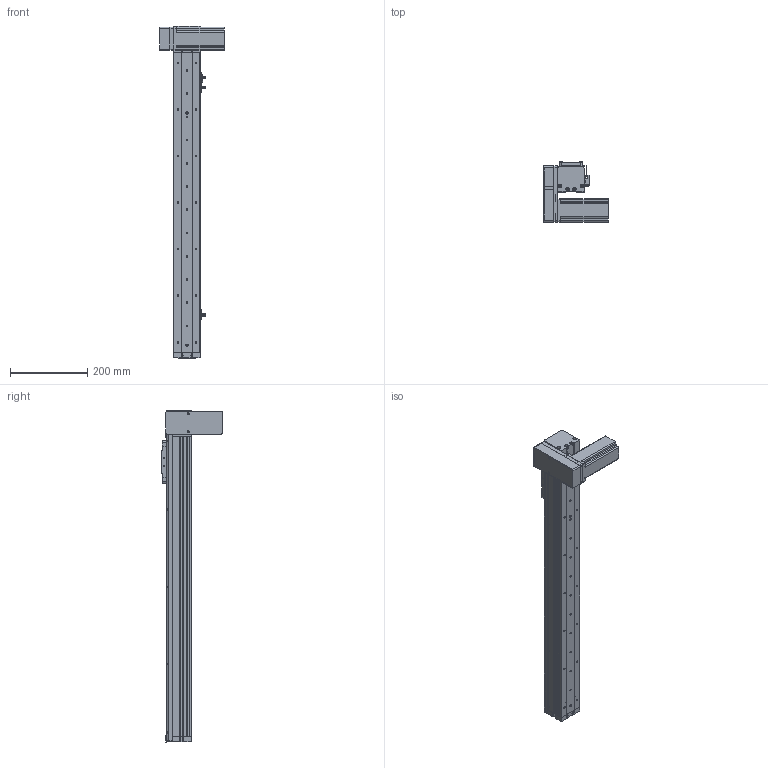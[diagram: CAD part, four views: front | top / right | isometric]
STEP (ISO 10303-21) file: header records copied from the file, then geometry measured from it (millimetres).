
FILE_DESCRIPTION (( 'STEP AP214' ), '1' );
FILE_NAME ('KSD68BS-S600-MRD-CR.STEP', '2019-08-28T02:13:42', ( '微软用户' ), ( '微软中国' ), 'SwSTEP 2.0', 'SolidWorks 2014', '' );
FILE_SCHEMA (( 'AUTOMOTIVE_DESIGN' ));
Length unit declared in the file: millimetre
Products named in the file (14): 68宽单导轨全封闭丝杆传动安装板1防护罩; KSD68BS 600行程侧板全封闭; 68宽单导轨全封闭同步带端板; 68单导轨全封闭同步带电机座右; 68单导轨全封闭同步带安装板; 悵誘欶奻狟殏; 68宽马达安装板连板上折同步带; 感应片68宽全封闭; U倰嫖萇EEㄜSX672; 台达ECMA－C20604AS伺服电机（400W); KSD68BS 600行程底板全封闭; KSD68BS 600行程盖板全封闭; 68遵裔啣揤啣1; KSD68BS-S600-MRD-CR
Assembly tree (17 placements, depth 2):
  KSD68BS-S600-MRD-CR
    KSD68BS 600行程底板全封闭
    台达ECMA－C20604AS伺服电机（400W)
    U倰嫖萇EEㄜSX672  x3
    感应片68宽全封闭
    68宽马达安装板连板上折同步带
    悵誘欶奻狟殏
    68单导轨全封闭同步带安装板
    68单导轨全封闭同步带电机座右
    68宽单导轨全封闭同步带端板
    KSD68BS 600行程侧板全封闭  x2
    68宽单导轨全封闭丝杆传动安装板1防护罩
    68遵裔啣揤啣1  x2
    KSD68BS 600行程盖板全封闭
Bounding box: 167.2 x 155.5 x 858.1 mm (x, y, z)
Volume: 1998337.3 mm3; surface area: 717859.3 mm2
Topology: 18 solids, 18 shells, 1440 faces, 4069 edges, 2609 vertices
Faces by surface type: cylinder 665, plane 627, cone 148
Entity records: 44934 total; most frequent: CARTESIAN_POINT 7593, DIRECTION 6775, ORIENTED_EDGE 6482, EDGE_CURVE 3241, AXIS2_PLACEMENT_3D 2425, VERTEX_POINT 2127, LINE 1925, VECTOR 1925
